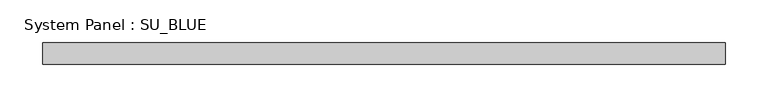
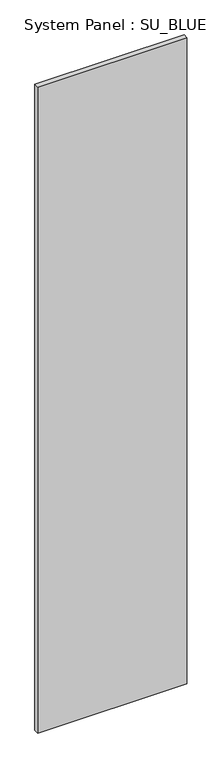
"""IFC4 building model written with IfcOpenShell, lengths in millimetres: plate geometry, System Panel : SU_BLUE."""

from ifc_helpers import new_model, si_unit, origin, origin_with_axes, place, context, project, spatial, polyline, outline, extrude, source, transform, mapped, element, save


def system_panel_su_blue_3fa13865(model_context):
    return source(origin(), model_context, "Body", "SweptSolid", [
        extrude(outline(polyline([(399.4846123, 19.05), (-399.4846123, 19.05), (-399.4846123, 44.45), (399.4846123, 44.45), (399.4846123, 19.05)])), origin_with_axes(), (0.0, 0.0, 1.0), 3657.6),
    ])


if __name__ == "__main__":
    model = new_model("IFC4")
    model_context = context("Model", 3, world=origin())
    ifc_project = project(units=[si_unit("LENGTHUNIT", "METRE", prefix="MILLI")], contexts=[model_context])
    site = spatial("IfcSite", under=ifc_project)
    building = spatial("IfcBuilding", under=site)
    placement = place(None, origin())
    system_panel_su_blue_shape = system_panel_su_blue_3fa13865(model_context)
    element("IfcPlate", 1, ObjectType="System Panel : SU_BLUE", at=placement, inside=building, context=model_context, shape_type="MappedRepresentation", body=[
        mapped(system_panel_su_blue_shape, transform((0.0, 0.0, 0.0), x_axis=(1.0, 0.0, 0.0), y_axis=(0.0, 1.0, 0.0), z_axis=(0.0, 0.0, 1.0))),
    ])
    save(model, "model.ifc")
